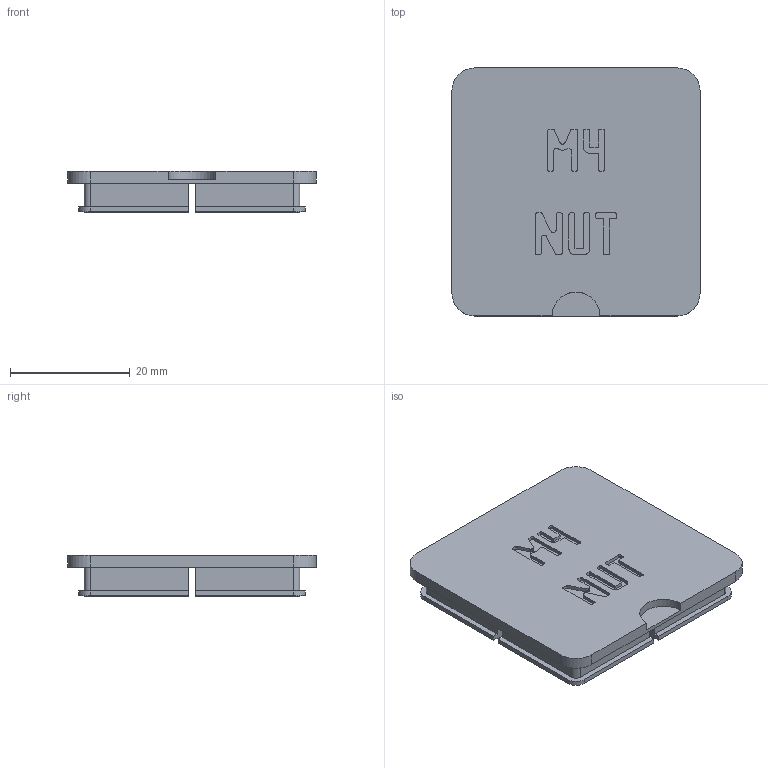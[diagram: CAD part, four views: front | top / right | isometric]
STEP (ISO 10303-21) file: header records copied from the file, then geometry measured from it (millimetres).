
FILE_DESCRIPTION(('Open CASCADE Model'),'2;1');
FILE_NAME('Open CASCADE Shape Model','2026-11-03T17:10:27',('Author'),( 'Open CASCADE'),'Open CASCADE STEP processor 8.0','build123d', 'Unknown');
FILE_SCHEMA(('AUTOMOTIVE_DESIGN { 1 0 10303 214 1 1 1 1 }'));
Length unit declared in the file: millimetre
Products named in the file (1): COMPOUND
Bounding box: 41.5 x 41.5 x 6.9 mm (x, y, z)
Volume: 4222.3 mm3; surface area: 5464.9 mm2
Topology: 1 solids, 1 shells, 512 faces, 1512 edges, 1008 vertices
Faces by surface type: plane 491, cylinder 21
Entity records: 36356 total; most frequent: CARTESIAN_POINT 6413, DIRECTION 5408, LINE 4288, VECTOR 4288, ORIENTED_EDGE 3024, PCURVE 3024, DEFINITIONAL_REPRESENTATION 3024, EDGE_CURVE 1512
